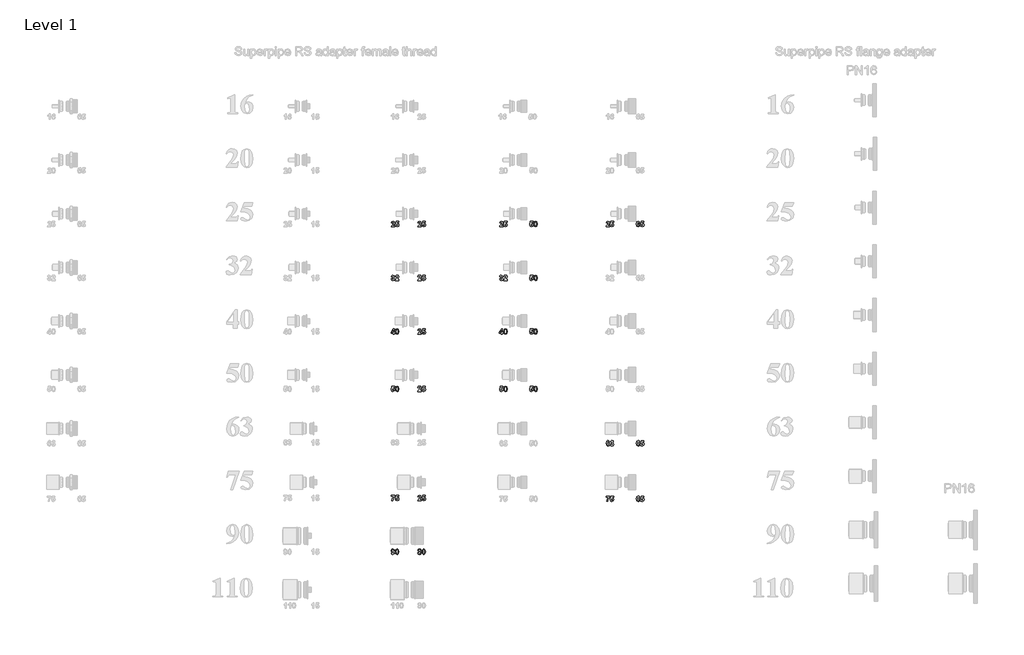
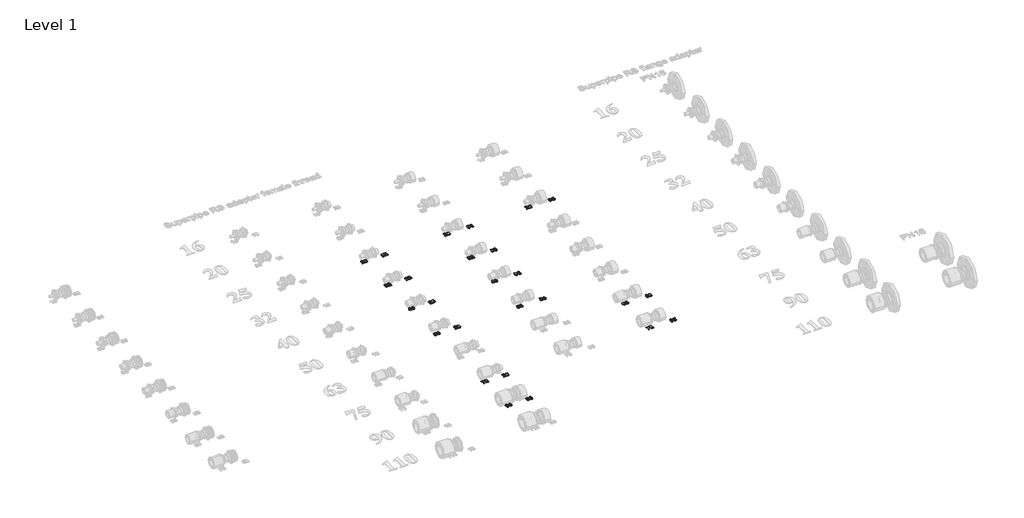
# One storey, part 46 of 57: 26 proxies.
"""IFC4 building model written with IfcOpenShell, lengths in millimetres."""

from ifc_helpers import new_model, si_unit, frame, origin, place, context, project, spatial, polyline, outline, extrude, element, save

model = new_model("IFC4")

# Units and contexts
model_context = context("Model", 3, world=origin())
ifc_project = project(units=[si_unit("LENGTHUNIT", "METRE", prefix="MILLI")], contexts=[model_context])

# Site, building, storey
site = spatial("IfcSite", under=ifc_project)
building = spatial("IfcBuilding", under=site)
storey = spatial("IfcBuildingStorey", under=building, Name="Level 1", Elevation=27.3876384)

# Proxies
placement = place(None, origin())
element("IfcBuildingElementProxy", 1, Name="30mm Arial", ObjectType="30mm Arial", at=placement, inside=storey, context=model_context, shape_type="SweptSolid", body=[
    extrude(outline(polyline([(32827.0287378, 17979.4089076), (32827.0287378, 17973.5788539), (32807.5952254, 17973.5788539), (32809.4550733, 17979.298835), (32815.566002, 17986.4687383), (32820.0751842, 17991.3574813), (32821.1986841, 17994.864623), (32820.2535777, 17997.8138103), (32817.6459951, 17998.84242), (32815.0346169, 17997.8289927), (32813.911117, 17994.4698797), (32808.0810633, 17995.0012648), (32811.2086442, 18002.0497087), (32817.7750458, 18004.1866359), (32824.5615927, 18001.7916074), (32827.0287378, 17995.8362986), (32826.3531196, 17991.979961), (32824.2123968, 17988.146397), (32820.5875912, 17984.3204243), (32817.2588431, 17981.003063), (32816.1657081, 17979.4089076), (32827.0287378, 17979.4089076)])), frame((0.0, 0.0, 27.3876384), z_axis=(0.0, 0.0, 1.0), x_axis=(1.0, 0.0, 0.0)), (0.0, 0.0, 1.0), 2.0),
    extrude(outline(polyline([(32830.9154403, 17982.1948838), (32836.2596562, 17982.8097723), (32837.7475345, 17979.6138705), (32840.6018316, 17978.437232), (32843.7256169, 17979.685987), (32845.0047368, 17983.4474344), (32843.8167115, 17986.9773498), (32840.7232911, 17988.1539882), (32836.4570278, 17985.7247992), (32831.4012781, 17986.4763295), (32834.8021428, 18003.7007981), (32849.3772771, 18003.7007981), (32849.3772771, 17997.8707444), (32839.5162878, 17997.8707444), (32838.3396493, 17992.3063832), (32842.0973011, 17993.4982041), (32848.2917332, 17990.7387972), (32850.8347905, 17983.5764851), (32848.7168413, 17977.0252659), (32840.6929262, 17973.0930161), (32834.0088607, 17975.5601612), (32830.9154403, 17982.1948838)])), frame((0.0, 0.0, 27.3876384), z_axis=(0.0, 0.0, 1.0), x_axis=(1.0, 0.0, 0.0)), (0.0, 0.0, 1.0), 2.0),
])
element("IfcBuildingElementProxy", 2, Name="30mm Arial", ObjectType="30mm Arial", at=placement, inside=storey, context=model_context, shape_type="SweptSolid", body=[
    extrude(outline(polyline([(32976.3452254, 17982.1948838), (32981.6894414, 17982.8097723), (32983.1773196, 17979.6138705), (32986.0316168, 17978.437232), (32989.1554021, 17979.685987), (32990.4345219, 17983.4474344), (32989.2464967, 17986.9773498), (32986.1530762, 17988.1539882), (32981.886813, 17985.7247992), (32976.8310633, 17986.4763295), (32980.2319279, 18003.7007981), (32994.8070622, 18003.7007981), (32994.8070622, 17997.8707444), (32984.9460729, 17997.8707444), (32983.7694345, 17992.3063832), (32987.5270863, 17993.4982041), (32993.7215184, 17990.7387972), (32996.2645756, 17983.5764851), (32994.1466264, 17977.0252659), (32986.1227114, 17973.0930161), (32979.4386459, 17975.5601612), (32976.3452254, 17982.1948838)])), frame((0.0, 0.0, 27.3876384), z_axis=(0.0, 0.0, 1.0), x_axis=(1.0, 0.0, 0.0)), (0.0, 0.0, 1.0), 2.0),
    extrude(outline(polyline([(33009.3821965, 18004.1866359), (33016.1763346, 18001.0286902), (33019.0989527, 17988.6322348), (33016.1611522, 17976.2054146), (33009.3821965, 17973.0930161), (33002.3413439, 17976.5090632), (32999.6654403, 17988.6929645), (33002.6032408, 18001.0742375), (33009.3821965, 18004.1866359)]), holes=[polyline([(33009.3821965, 17998.84242), (33007.4388453, 17998.2009623), (33006.1179737, 17995.8970283), (33005.495494, 17988.6322348), (33006.0496528, 17981.6141558), (33007.4502321, 17979.0710985), (33009.3821965, 17978.437232), (33011.3255477, 17979.0786898), (33012.6464193, 17981.3826237), (33013.268899, 17988.6322348), (33012.7147402, 17995.6465182), (33011.3141609, 17998.2009623), (33009.3821965, 17998.84242)])]), frame((0.0, 0.0, 27.3876384), z_axis=(0.0, 0.0, 1.0), x_axis=(1.0, 0.0, 0.0)), (0.0, 0.0, 1.0), 2.0),
])
element("IfcBuildingElementProxy", 3, Name="30mm Arial", ObjectType="30mm Arial", at=placement, inside=storey, context=model_context, shape_type="SweptSolid", body=[
    extrude(outline(polyline([(32807.5952254, 17682.1341541), (32813.4252792, 17682.8097723), (32814.7385595, 17679.560732), (32817.3271641, 17678.437232), (32820.0827754, 17679.7239431), (32821.1986841, 17683.1893331), (32820.1776656, 17686.4611471), (32817.6839512, 17687.6681504), (32815.3686304, 17687.2354511), (32815.8772419, 17692.0406907), (32818.750517, 17692.9971839), (32819.7411707, 17695.6996567), (32819.0010271, 17697.9884083), (32817.0311067, 17698.84242), (32814.9549091, 17697.8517664), (32813.911117, 17694.9557175), (32808.0810633, 17695.8287074), (32809.6866054, 17700.4631446), (32812.6851356, 17703.1921867), (32816.9931506, 17704.1866359), (32823.5367786, 17701.4310246), (32825.5712244, 17696.3297276), (32821.2062753, 17689.8999678), (32825.4421737, 17687.3986622), (32827.0287378, 17682.7034953), (32824.2161924, 17675.9055616), (32817.2132958, 17673.0930161), (32810.6279161, 17675.5943217), (32807.5952254, 17682.1341541)])), frame((0.0, 0.0, 27.3876384), z_axis=(0.0, 0.0, 1.0), x_axis=(1.0, 0.0, 0.0)), (0.0, 0.0, 1.0), 2.0),
    extrude(outline(polyline([(32850.3489527, 17679.4089076), (32850.3489527, 17673.5788539), (32830.9154403, 17673.5788539), (32832.7752882, 17679.298835), (32838.8862169, 17686.4687383), (32843.395399, 17691.3574813), (32844.518899, 17694.864623), (32843.5737926, 17697.8138103), (32840.96621, 17698.84242), (32838.3548318, 17697.8289927), (32837.2313318, 17694.4698797), (32831.4012781, 17695.0012648), (32834.528859, 17702.0497087), (32841.0952607, 17704.1866359), (32847.8818076, 17701.7916074), (32850.3489527, 17695.8362986), (32849.6733345, 17691.979961), (32847.5326116, 17688.146397), (32843.9078061, 17684.3204243), (32840.579058, 17681.003063), (32839.4859229, 17679.4089076), (32850.3489527, 17679.4089076)])), frame((0.0, 0.0, 27.3876384), z_axis=(0.0, 0.0, 1.0), x_axis=(1.0, 0.0, 0.0)), (0.0, 0.0, 1.0), 2.0),
])
element("IfcBuildingElementProxy", 4, Name="30mm Arial", ObjectType="30mm Arial", at=placement, inside=storey, context=model_context, shape_type="SweptSolid", body=[
    extrude(outline(polyline([(32976.3452254, 17682.1948838), (32981.6894414, 17682.8097723), (32983.1773196, 17679.6138705), (32986.0316168, 17678.437232), (32989.1554021, 17679.685987), (32990.4345219, 17683.4474344), (32989.2464967, 17686.9773498), (32986.1530762, 17688.1539882), (32981.886813, 17685.7247992), (32976.8310633, 17686.4763295), (32980.2319279, 17703.7007981), (32994.8070622, 17703.7007981), (32994.8070622, 17697.8707444), (32984.9460729, 17697.8707444), (32983.7694345, 17692.3063832), (32987.5270863, 17693.4982041), (32993.7215184, 17690.7387972), (32996.2645756, 17683.5764851), (32994.1466264, 17677.0252659), (32986.1227114, 17673.0930161), (32979.4386459, 17675.5601612), (32976.3452254, 17682.1948838)])), frame((0.0, 0.0, 27.3876384), z_axis=(0.0, 0.0, 1.0), x_axis=(1.0, 0.0, 0.0)), (0.0, 0.0, 1.0), 2.0),
    extrude(outline(polyline([(33009.3821965, 17704.1866359), (33016.1763346, 17701.0286902), (33019.0989527, 17688.6322348), (33016.1611522, 17676.2054146), (33009.3821965, 17673.0930161), (33002.3413439, 17676.5090632), (32999.6654403, 17688.6929645), (33002.6032408, 17701.0742375), (33009.3821965, 17704.1866359)]), holes=[polyline([(33009.3821965, 17698.84242), (33007.4388453, 17698.2009623), (33006.1179737, 17695.8970283), (33005.495494, 17688.6322348), (33006.0496528, 17681.6141558), (33007.4502321, 17679.0710985), (33009.3821965, 17678.437232), (33011.3255477, 17679.0786898), (33012.6464193, 17681.3826237), (33013.268899, 17688.6322348), (33012.7147402, 17695.6465182), (33011.3141609, 17698.2009623), (33009.3821965, 17698.84242)])]), frame((0.0, 0.0, 27.3876384), z_axis=(0.0, 0.0, 1.0), x_axis=(1.0, 0.0, 0.0)), (0.0, 0.0, 1.0), 2.0),
])
element("IfcBuildingElementProxy", 5, Name="30mm Arial", ObjectType="30mm Arial", at=placement, inside=storey, context=model_context, shape_type="SweptSolid", body=[
    extrude(outline(polyline([(32818.2836573, 17373.5788539), (32818.2836573, 17379.8947455), (32806.6235498, 17379.8947455), (32806.6235498, 17384.7303499), (32819.0579613, 17403.7007981), (32824.113711, 17403.7007981), (32824.113711, 17384.7531236), (32828.0004134, 17384.7531236), (32828.0004134, 17379.8947455), (32824.113711, 17379.8947455), (32824.113711, 17373.5788539), (32818.2836573, 17373.5788539)]), holes=[polyline([(32818.2836573, 17384.7531236), (32818.2836573, 17394.6976162), (32811.7703941, 17384.7531236), (32818.2836573, 17384.7531236)])]), frame((0.0, 0.0, 27.3876384), z_axis=(0.0, 0.0, 1.0), x_axis=(1.0, 0.0, 0.0)), (0.0, 0.0, 1.0), 2.0),
    extrude(outline(polyline([(32840.6321965, 17404.1866359), (32847.4263346, 17401.0286902), (32850.3489527, 17388.6322348), (32847.4111522, 17376.2054146), (32840.6321965, 17373.0930161), (32833.5913439, 17376.5090632), (32830.9154403, 17388.6929645), (32833.8532408, 17401.0742375), (32840.6321965, 17404.1866359)]), holes=[polyline([(32840.6321965, 17398.84242), (32838.6888453, 17398.2009623), (32837.3679737, 17395.8970283), (32836.745494, 17388.6322348), (32837.2996528, 17381.6141558), (32838.7002321, 17379.0710985), (32840.6321965, 17378.437232), (32842.5755477, 17379.0786898), (32843.8964193, 17381.3826237), (32844.518899, 17388.6322348), (32843.9647402, 17395.6465182), (32842.5641609, 17398.2009623), (32840.6321965, 17398.84242)])]), frame((0.0, 0.0, 27.3876384), z_axis=(0.0, 0.0, 1.0), x_axis=(1.0, 0.0, 0.0)), (0.0, 0.0, 1.0), 2.0),
])
element("IfcBuildingElementProxy", 6, Name="30mm Arial", ObjectType="30mm Arial", at=placement, inside=storey, context=model_context, shape_type="SweptSolid", body=[
    extrude(outline(polyline([(32976.3452254, 17382.1948838), (32981.6894414, 17382.8097723), (32983.1773196, 17379.6138705), (32986.0316168, 17378.437232), (32989.1554021, 17379.685987), (32990.4345219, 17383.4474344), (32989.2464967, 17386.9773498), (32986.1530762, 17388.1539882), (32981.886813, 17385.7247992), (32976.8310633, 17386.4763295), (32980.2319279, 17403.7007981), (32994.8070622, 17403.7007981), (32994.8070622, 17397.8707444), (32984.9460729, 17397.8707444), (32983.7694345, 17392.3063832), (32987.5270863, 17393.4982041), (32993.7215184, 17390.7387972), (32996.2645756, 17383.5764851), (32994.1466264, 17377.0252659), (32986.1227114, 17373.0930161), (32979.4386459, 17375.5601612), (32976.3452254, 17382.1948838)])), frame((0.0, 0.0, 27.3876384), z_axis=(0.0, 0.0, 1.0), x_axis=(1.0, 0.0, 0.0)), (0.0, 0.0, 1.0), 2.0),
    extrude(outline(polyline([(33009.3821965, 17404.1866359), (33016.1763346, 17401.0286902), (33019.0989527, 17388.6322348), (33016.1611522, 17376.2054146), (33009.3821965, 17373.0930161), (33002.3413439, 17376.5090632), (32999.6654403, 17388.6929645), (33002.6032408, 17401.0742375), (33009.3821965, 17404.1866359)]), holes=[polyline([(33009.3821965, 17398.84242), (33007.4388453, 17398.2009623), (33006.1179737, 17395.8970283), (33005.495494, 17388.6322348), (33006.0496528, 17381.6141558), (33007.4502321, 17379.0710985), (33009.3821965, 17378.437232), (33011.3255477, 17379.0786898), (33012.6464193, 17381.3826237), (33013.268899, 17388.6322348), (33012.7147402, 17395.6465182), (33011.3141609, 17398.2009623), (33009.3821965, 17398.84242)])]), frame((0.0, 0.0, 27.3876384), z_axis=(0.0, 0.0, 1.0), x_axis=(1.0, 0.0, 0.0)), (0.0, 0.0, 1.0), 2.0),
])
element("IfcBuildingElementProxy", 7, Name="30mm Arial", ObjectType="30mm Arial", at=placement, inside=storey, context=model_context, shape_type="SweptSolid", body=[
    extrude(outline(polyline([(32807.5952254, 17062.1948838), (32812.9394414, 17062.8097723), (32814.4273196, 17059.6138705), (32817.2816168, 17058.437232), (32820.4054021, 17059.685987), (32821.6845219, 17063.4474344), (32820.4964967, 17066.9773498), (32817.4030762, 17068.1539882), (32813.136813, 17065.7247992), (32808.0810633, 17066.4763295), (32811.4819279, 17083.7007981), (32826.0570622, 17083.7007981), (32826.0570622, 17077.8707444), (32816.1960729, 17077.8707444), (32815.0194345, 17072.3063832), (32818.7770863, 17073.4982041), (32824.9715184, 17070.7387972), (32827.5145756, 17063.5764851), (32825.3966264, 17057.0252659), (32817.3727114, 17053.0930161), (32810.6886459, 17055.5601612), (32807.5952254, 17062.1948838)])), frame((0.0, 0.0, 27.3876384), z_axis=(0.0, 0.0, 1.0), x_axis=(1.0, 0.0, 0.0)), (0.0, 0.0, 1.0), 2.0),
    extrude(outline(polyline([(32840.6321965, 17084.1866359), (32847.4263346, 17081.0286902), (32850.3489527, 17068.6322348), (32847.4111522, 17056.2054146), (32840.6321965, 17053.0930161), (32833.5913439, 17056.5090632), (32830.9154403, 17068.6929645), (32833.8532408, 17081.0742375), (32840.6321965, 17084.1866359)]), holes=[polyline([(32840.6321965, 17078.84242), (32838.6888453, 17078.2009623), (32837.3679737, 17075.8970283), (32836.745494, 17068.6322348), (32837.2996528, 17061.6141558), (32838.7002321, 17059.0710985), (32840.6321965, 17058.437232), (32842.5755477, 17059.0786898), (32843.8964193, 17061.3826237), (32844.518899, 17068.6322348), (32843.9647402, 17075.6465182), (32842.5641609, 17078.2009623), (32840.6321965, 17078.84242)])]), frame((0.0, 0.0, 27.3876384), z_axis=(0.0, 0.0, 1.0), x_axis=(1.0, 0.0, 0.0)), (0.0, 0.0, 1.0), 2.0),
])
element("IfcBuildingElementProxy", 8, Name="30mm Arial", ObjectType="30mm Arial", at=placement, inside=storey, context=model_context, shape_type="SweptSolid", body=[
    extrude(outline(polyline([(32976.3452254, 17062.1948838), (32981.6894414, 17062.8097723), (32983.1773196, 17059.6138705), (32986.0316168, 17058.437232), (32989.1554021, 17059.685987), (32990.4345219, 17063.4474344), (32989.2464967, 17066.9773498), (32986.1530762, 17068.1539882), (32981.886813, 17065.7247992), (32976.8310633, 17066.4763295), (32980.2319279, 17083.7007981), (32994.8070622, 17083.7007981), (32994.8070622, 17077.8707444), (32984.9460729, 17077.8707444), (32983.7694345, 17072.3063832), (32987.5270863, 17073.4982041), (32993.7215184, 17070.7387972), (32996.2645756, 17063.5764851), (32994.1466264, 17057.0252659), (32986.1227114, 17053.0930161), (32979.4386459, 17055.5601612), (32976.3452254, 17062.1948838)])), frame((0.0, 0.0, 27.3876384), z_axis=(0.0, 0.0, 1.0), x_axis=(1.0, 0.0, 0.0)), (0.0, 0.0, 1.0), 2.0),
    extrude(outline(polyline([(33009.3821965, 17084.1866359), (33016.1763346, 17081.0286902), (33019.0989527, 17068.6322348), (33016.1611522, 17056.2054146), (33009.3821965, 17053.0930161), (33002.3413439, 17056.5090632), (32999.6654403, 17068.6929645), (33002.6032408, 17081.0742375), (33009.3821965, 17084.1866359)]), holes=[polyline([(33009.3821965, 17078.84242), (33007.4388453, 17078.2009623), (33006.1179737, 17075.8970283), (33005.495494, 17068.6322348), (33006.0496528, 17061.6141558), (33007.4502321, 17059.0710985), (33009.3821965, 17058.437232), (33011.3255477, 17059.0786898), (33012.6464193, 17061.3826237), (33013.268899, 17068.6322348), (33012.7147402, 17075.6465182), (33011.3141609, 17078.2009623), (33009.3821965, 17078.84242)])]), frame((0.0, 0.0, 27.3876384), z_axis=(0.0, 0.0, 1.0), x_axis=(1.0, 0.0, 0.0)), (0.0, 0.0, 1.0), 2.0),
])
element("IfcBuildingElementProxy", 9, Name="30mm Arial", ObjectType="30mm Arial", at=placement, inside=storey, context=model_context, shape_type="SweptSolid", body=[
    extrude(outline(polyline([(33422.0287378, 17979.4089076), (33422.0287378, 17973.5788539), (33402.5952254, 17973.5788539), (33404.4550733, 17979.298835), (33410.566002, 17986.4687383), (33415.0751842, 17991.3574813), (33416.1986841, 17994.864623), (33415.2535777, 17997.8138103), (33412.6459951, 17998.84242), (33410.0346169, 17997.8289927), (33408.911117, 17994.4698797), (33403.0810633, 17995.0012648), (33406.2086442, 18002.0497087), (33412.7750458, 18004.1866359), (33419.5615927, 18001.7916074), (33422.0287378, 17995.8362986), (33421.3531196, 17991.979961), (33419.2123968, 17988.146397), (33415.5875912, 17984.3204243), (33412.2588431, 17981.003063), (33411.1657081, 17979.4089076), (33422.0287378, 17979.4089076)])), frame((0.0, 0.0, 27.3876384), z_axis=(0.0, 0.0, 1.0), x_axis=(1.0, 0.0, 0.0)), (0.0, 0.0, 1.0), 2.0),
    extrude(outline(polyline([(33425.9154403, 17982.1948838), (33431.2596562, 17982.8097723), (33432.7475345, 17979.6138705), (33435.6018316, 17978.437232), (33438.7256169, 17979.685987), (33440.0047368, 17983.4474344), (33438.8167115, 17986.9773498), (33435.7232911, 17988.1539882), (33431.4570278, 17985.7247992), (33426.4012781, 17986.4763295), (33429.8021428, 18003.7007981), (33444.3772771, 18003.7007981), (33444.3772771, 17997.8707444), (33434.5162878, 17997.8707444), (33433.3396493, 17992.3063832), (33437.0973011, 17993.4982041), (33443.2917332, 17990.7387972), (33445.8347905, 17983.5764851), (33443.7168413, 17977.0252659), (33435.6929262, 17973.0930161), (33429.0088607, 17975.5601612), (33425.9154403, 17982.1948838)])), frame((0.0, 0.0, 27.3876384), z_axis=(0.0, 0.0, 1.0), x_axis=(1.0, 0.0, 0.0)), (0.0, 0.0, 1.0), 2.0),
])
element("IfcBuildingElementProxy", 10, Name="30mm Arial", ObjectType="30mm Arial", at=placement, inside=storey, context=model_context, shape_type="SweptSolid", body=[
    extrude(outline(polyline([(33590.2929, 17996.0640351), (33584.4628463, 17995.4415554), (33583.430441, 17998.0111819), (33581.2593532, 17998.84242), (33578.2684142, 17997.2292867), (33576.7273974, 17990.4541266), (33582.0564309, 17993.0123663), (33588.2167025, 17990.2795286), (33590.7787378, 17983.2272892), (33588.1597684, 17975.8676055), (33581.42636, 17973.0930161), (33574.1843401, 17976.67607), (33571.3452254, 17988.4196808), (33574.3095952, 18000.4897138), (33582.0108836, 18004.1866359), (33587.514515, 18002.1066428), (33590.2929, 17996.0640351)]), holes=[polyline([(33577.1752792, 17983.3563398), (33578.435421, 17979.7163519), (33581.3124918, 17978.437232), (33583.9086876, 17979.4848198), (33584.9486841, 17982.9236405), (33583.8289798, 17986.5256724), (33581.0316168, 17987.6681504), (33578.2949835, 17986.5750153), (33577.1752792, 17983.3563398)])]), frame((0.0, 0.0, 27.3876384), z_axis=(0.0, 0.0, 1.0), x_axis=(1.0, 0.0, 0.0)), (0.0, 0.0, 1.0), 2.0),
    extrude(outline(polyline([(33594.6654403, 17982.1948838), (33600.0096562, 17982.8097723), (33601.4975345, 17979.6138705), (33604.3518316, 17978.437232), (33607.4756169, 17979.685987), (33608.7547368, 17983.4474344), (33607.5667115, 17986.9773498), (33604.4732911, 17988.1539882), (33600.2070278, 17985.7247992), (33595.1512781, 17986.4763295), (33598.5521428, 18003.7007981), (33613.1272771, 18003.7007981), (33613.1272771, 17997.8707444), (33603.2662878, 17997.8707444), (33602.0896493, 17992.3063832), (33605.8473011, 17993.4982041), (33612.0417332, 17990.7387972), (33614.5847905, 17983.5764851), (33612.4668413, 17977.0252659), (33604.4429262, 17973.0930161), (33597.7588607, 17975.5601612), (33594.6654403, 17982.1948838)])), frame((0.0, 0.0, 27.3876384), z_axis=(0.0, 0.0, 1.0), x_axis=(1.0, 0.0, 0.0)), (0.0, 0.0, 1.0), 2.0),
])
element("IfcBuildingElementProxy", 11, Name="30mm Arial", ObjectType="30mm Arial", at=placement, inside=storey, context=model_context, shape_type="SweptSolid", body=[
    extrude(outline(polyline([(33421.5429, 16772.0640351), (33415.7128463, 16771.4415554), (33414.680441, 16774.0111819), (33412.5093532, 16774.84242), (33409.5184142, 16773.2292867), (33407.9773974, 16766.4541266), (33413.3064309, 16769.0123663), (33419.4667025, 16766.2795286), (33422.0287378, 16759.2272892), (33419.4097684, 16751.8676055), (33412.67636, 16749.0930161), (33405.4343401, 16752.67607), (33402.5952254, 16764.4196808), (33405.5595952, 16776.4897138), (33413.2608836, 16780.1866359), (33418.764515, 16778.1066428), (33421.5429, 16772.0640351)]), holes=[polyline([(33408.4252792, 16759.3563398), (33409.685421, 16755.7163519), (33412.5624918, 16754.437232), (33415.1586876, 16755.4848198), (33416.1986841, 16758.9236405), (33415.0789798, 16762.5256724), (33412.2816168, 16763.6681504), (33409.5449835, 16762.5750153), (33408.4252792, 16759.3563398)])]), frame((0.0, 0.0, 27.3876384), z_axis=(0.0, 0.0, 1.0), x_axis=(1.0, 0.0, 0.0)), (0.0, 0.0, 1.0), 2.0),
    extrude(outline(polyline([(33425.9154403, 16758.1341541), (33431.745494, 16758.8097723), (33433.0587743, 16755.560732), (33435.6473789, 16754.437232), (33438.4029903, 16755.7239431), (33439.518899, 16759.1893331), (33438.4978804, 16762.4611471), (33436.0041661, 16763.6681504), (33433.6888453, 16763.2354511), (33434.1974567, 16768.0406907), (33437.0707319, 16768.9971839), (33438.0613855, 16771.6996567), (33437.321242, 16773.9884083), (33435.3513215, 16774.84242), (33433.275124, 16773.8517664), (33432.2313318, 16770.9557175), (33426.4012781, 16771.8287074), (33428.0068202, 16776.4631446), (33431.0053505, 16779.1921867), (33435.3133654, 16780.1866359), (33441.8569934, 16777.4310246), (33443.8914393, 16772.3297276), (33439.5264902, 16765.8999678), (33443.7623886, 16763.3986622), (33445.3489527, 16758.7034953), (33442.5364072, 16751.9055616), (33435.5335107, 16749.0930161), (33428.948131, 16751.5943217), (33425.9154403, 16758.1341541)])), frame((0.0, 0.0, 27.3876384), z_axis=(0.0, 0.0, 1.0), x_axis=(1.0, 0.0, 0.0)), (0.0, 0.0, 1.0), 2.0),
])
element("IfcBuildingElementProxy", 12, Name="30mm Arial", ObjectType="30mm Arial", at=placement, inside=storey, context=model_context, shape_type="SweptSolid", body=[
    extrude(outline(polyline([(33590.2929, 16772.0640351), (33584.4628463, 16771.4415554), (33583.430441, 16774.0111819), (33581.2593532, 16774.84242), (33578.2684142, 16773.2292867), (33576.7273974, 16766.4541266), (33582.0564309, 16769.0123663), (33588.2167025, 16766.2795286), (33590.7787378, 16759.2272892), (33588.1597684, 16751.8676055), (33581.42636, 16749.0930161), (33574.1843401, 16752.67607), (33571.3452254, 16764.4196808), (33574.3095952, 16776.4897138), (33582.0108836, 16780.1866359), (33587.514515, 16778.1066428), (33590.2929, 16772.0640351)]), holes=[polyline([(33577.1752792, 16759.3563398), (33578.435421, 16755.7163519), (33581.3124918, 16754.437232), (33583.9086876, 16755.4848198), (33584.9486841, 16758.9236405), (33583.8289798, 16762.5256724), (33581.0316168, 16763.6681504), (33578.2949835, 16762.5750153), (33577.1752792, 16759.3563398)])]), frame((0.0, 0.0, 27.3876384), z_axis=(0.0, 0.0, 1.0), x_axis=(1.0, 0.0, 0.0)), (0.0, 0.0, 1.0), 2.0),
    extrude(outline(polyline([(33594.6654403, 16758.1948838), (33600.0096562, 16758.8097723), (33601.4975345, 16755.6138705), (33604.3518316, 16754.437232), (33607.4756169, 16755.685987), (33608.7547368, 16759.4474344), (33607.5667115, 16762.9773498), (33604.4732911, 16764.1539882), (33600.2070278, 16761.7247992), (33595.1512781, 16762.4763295), (33598.5521428, 16779.7007981), (33613.1272771, 16779.7007981), (33613.1272771, 16773.8707444), (33603.2662878, 16773.8707444), (33602.0896493, 16768.3063832), (33605.8473011, 16769.4982041), (33612.0417332, 16766.7387972), (33614.5847905, 16759.5764851), (33612.4668413, 16753.0252659), (33604.4429262, 16749.0930161), (33597.7588607, 16751.5601612), (33594.6654403, 16758.1948838)])), frame((0.0, 0.0, 27.3876384), z_axis=(0.0, 0.0, 1.0), x_axis=(1.0, 0.0, 0.0)), (0.0, 0.0, 1.0), 2.0),
])
element("IfcBuildingElementProxy", 13, Name="30mm Arial", ObjectType="30mm Arial", at=placement, inside=storey, context=model_context, shape_type="SweptSolid", body=[
    extrude(outline(polyline([(33402.5952254, 16463.7207444), (33402.5952254, 16469.5507981), (33422.0287378, 16469.5507981), (33422.0287378, 16465.1782578), (33417.022331, 16458.2095218), (33413.1394242, 16448.5610865), (33411.8261438, 16439.4288539), (33405.9960901, 16439.4288539), (33408.6568112, 16452.1403447), (33415.3636504, 16463.7207444), (33402.5952254, 16463.7207444)])), frame((0.0, 0.0, 27.3876384), z_axis=(0.0, 0.0, 1.0), x_axis=(1.0, 0.0, 0.0)), (0.0, 0.0, 1.0), 2.0),
    extrude(outline(polyline([(33425.9154403, 16448.0448838), (33431.2596562, 16448.6597723), (33432.7475345, 16445.4638705), (33435.6018316, 16444.287232), (33438.7256169, 16445.535987), (33440.0047368, 16449.2974344), (33438.8167115, 16452.8273498), (33435.7232911, 16454.0039882), (33431.4570278, 16451.5747992), (33426.4012781, 16452.3263295), (33429.8021428, 16469.5507981), (33444.3772771, 16469.5507981), (33444.3772771, 16463.7207444), (33434.5162878, 16463.7207444), (33433.3396493, 16458.1563832), (33437.0973011, 16459.3482041), (33443.2917332, 16456.5887972), (33445.8347905, 16449.4264851), (33443.7168413, 16442.8752659), (33435.6929262, 16438.9430161), (33429.0088607, 16441.4101612), (33425.9154403, 16448.0448838)])), frame((0.0, 0.0, 27.3876384), z_axis=(0.0, 0.0, 1.0), x_axis=(1.0, 0.0, 0.0)), (0.0, 0.0, 1.0), 2.0),
])
element("IfcBuildingElementProxy", 14, Name="30mm Arial", ObjectType="30mm Arial", at=placement, inside=storey, context=model_context, shape_type="SweptSolid", body=[
    extrude(outline(polyline([(33590.2929, 16461.9140351), (33584.4628463, 16461.2915554), (33583.430441, 16463.8611819), (33581.2593532, 16464.69242), (33578.2684142, 16463.0792867), (33576.7273974, 16456.3041266), (33582.0564309, 16458.8623663), (33588.2167025, 16456.1295286), (33590.7787378, 16449.0772892), (33588.1597684, 16441.7176055), (33581.42636, 16438.9430161), (33574.1843401, 16442.52607), (33571.3452254, 16454.2696808), (33574.3095952, 16466.3397138), (33582.0108836, 16470.0366359), (33587.514515, 16467.9566428), (33590.2929, 16461.9140351)]), holes=[polyline([(33577.1752792, 16449.2063398), (33578.435421, 16445.5663519), (33581.3124918, 16444.287232), (33583.9086876, 16445.3348198), (33584.9486841, 16448.7736405), (33583.8289798, 16452.3756724), (33581.0316168, 16453.5181504), (33578.2949835, 16452.4250153), (33577.1752792, 16449.2063398)])]), frame((0.0, 0.0, 27.3876384), z_axis=(0.0, 0.0, 1.0), x_axis=(1.0, 0.0, 0.0)), (0.0, 0.0, 1.0), 2.0),
    extrude(outline(polyline([(33594.6654403, 16448.0448838), (33600.0096562, 16448.6597723), (33601.4975345, 16445.4638705), (33604.3518316, 16444.287232), (33607.4756169, 16445.535987), (33608.7547368, 16449.2974344), (33607.5667115, 16452.8273498), (33604.4732911, 16454.0039882), (33600.2070278, 16451.5747992), (33595.1512781, 16452.3263295), (33598.5521428, 16469.5507981), (33613.1272771, 16469.5507981), (33613.1272771, 16463.7207444), (33603.2662878, 16463.7207444), (33602.0896493, 16458.1563832), (33605.8473011, 16459.3482041), (33612.0417332, 16456.5887972), (33614.5847905, 16449.4264851), (33612.4668413, 16442.8752659), (33604.4429262, 16438.9430161), (33597.7588607, 16441.4101612), (33594.6654403, 16448.0448838)])), frame((0.0, 0.0, 27.3876384), z_axis=(0.0, 0.0, 1.0), x_axis=(1.0, 0.0, 0.0)), (0.0, 0.0, 1.0), 2.0),
])
element("IfcBuildingElementProxy", 15, Name="30mm Arial", ObjectType="30mm Arial", at=placement, inside=storey, context=model_context, shape_type="SweptSolid", body=[
    extrude(outline(polyline([(32222.0287378, 17979.4089076), (32222.0287378, 17973.5788539), (32202.5952254, 17973.5788539), (32204.4550733, 17979.298835), (32210.566002, 17986.4687383), (32215.0751842, 17991.3574813), (32216.1986841, 17994.864623), (32215.2535777, 17997.8138103), (32212.6459951, 17998.84242), (32210.0346169, 17997.8289927), (32208.911117, 17994.4698797), (32203.0810633, 17995.0012648), (32206.2086442, 18002.0497087), (32212.7750458, 18004.1866359), (32219.5615927, 18001.7916074), (32222.0287378, 17995.8362986), (32221.3531196, 17991.979961), (32219.2123968, 17988.146397), (32215.5875912, 17984.3204243), (32212.2588431, 17981.003063), (32211.1657081, 17979.4089076), (32222.0287378, 17979.4089076)])), frame((0.0, 0.0, 27.3876384), z_axis=(0.0, 0.0, 1.0), x_axis=(1.0, 0.0, 0.0)), (0.0, 0.0, 1.0), 2.0),
    extrude(outline(polyline([(32225.9154403, 17982.1948838), (32231.2596562, 17982.8097723), (32232.7475345, 17979.6138705), (32235.6018316, 17978.437232), (32238.7256169, 17979.685987), (32240.0047368, 17983.4474344), (32238.8167115, 17986.9773498), (32235.7232911, 17988.1539882), (32231.4570278, 17985.7247992), (32226.4012781, 17986.4763295), (32229.8021428, 18003.7007981), (32244.3772771, 18003.7007981), (32244.3772771, 17997.8707444), (32234.5162878, 17997.8707444), (32233.3396493, 17992.3063832), (32237.0973011, 17993.4982041), (32243.2917332, 17990.7387972), (32245.8347905, 17983.5764851), (32243.7168413, 17977.0252659), (32235.6929262, 17973.0930161), (32229.0088607, 17975.5601612), (32225.9154403, 17982.1948838)])), frame((0.0, 0.0, 27.3876384), z_axis=(0.0, 0.0, 1.0), x_axis=(1.0, 0.0, 0.0)), (0.0, 0.0, 1.0), 2.0),
])
element("IfcBuildingElementProxy", 16, Name="30mm Arial", ObjectType="30mm Arial", at=placement, inside=storey, context=model_context, shape_type="SweptSolid", body=[
    extrude(outline(polyline([(32370.7787378, 17979.4089076), (32370.7787378, 17973.5788539), (32351.3452254, 17973.5788539), (32353.2050733, 17979.298835), (32359.316002, 17986.4687383), (32363.8251842, 17991.3574813), (32364.9486841, 17994.864623), (32364.0035777, 17997.8138103), (32361.3959951, 17998.84242), (32358.7846169, 17997.8289927), (32357.661117, 17994.4698797), (32351.8310633, 17995.0012648), (32354.9586442, 18002.0497087), (32361.5250458, 18004.1866359), (32368.3115927, 18001.7916074), (32370.7787378, 17995.8362986), (32370.1031196, 17991.979961), (32367.9623968, 17988.146397), (32364.3375912, 17984.3204243), (32361.0088431, 17981.003063), (32359.9157081, 17979.4089076), (32370.7787378, 17979.4089076)])), frame((0.0, 0.0, 27.3876384), z_axis=(0.0, 0.0, 1.0), x_axis=(1.0, 0.0, 0.0)), (0.0, 0.0, 1.0), 2.0),
    extrude(outline(polyline([(32374.6654403, 17982.1948838), (32380.0096562, 17982.8097723), (32381.4975345, 17979.6138705), (32384.3518316, 17978.437232), (32387.4756169, 17979.685987), (32388.7547368, 17983.4474344), (32387.5667115, 17986.9773498), (32384.4732911, 17988.1539882), (32380.2070278, 17985.7247992), (32375.1512781, 17986.4763295), (32378.5521428, 18003.7007981), (32393.1272771, 18003.7007981), (32393.1272771, 17997.8707444), (32383.2662878, 17997.8707444), (32382.0896493, 17992.3063832), (32385.8473011, 17993.4982041), (32392.0417332, 17990.7387972), (32394.5847905, 17983.5764851), (32392.4668413, 17977.0252659), (32384.4429262, 17973.0930161), (32377.7588607, 17975.5601612), (32374.6654403, 17982.1948838)])), frame((0.0, 0.0, 27.3876384), z_axis=(0.0, 0.0, 1.0), x_axis=(1.0, 0.0, 0.0)), (0.0, 0.0, 1.0), 2.0),
])
element("IfcBuildingElementProxy", 17, Name="30mm Arial", ObjectType="30mm Arial", at=placement, inside=storey, context=model_context, shape_type="SweptSolid", body=[
    extrude(outline(polyline([(32202.5952254, 17682.1341541), (32208.4252792, 17682.8097723), (32209.7385595, 17679.560732), (32212.3271641, 17678.437232), (32215.0827754, 17679.7239431), (32216.1986841, 17683.1893331), (32215.1776656, 17686.4611471), (32212.6839512, 17687.6681504), (32210.3686304, 17687.2354511), (32210.8772419, 17692.0406907), (32213.750517, 17692.9971839), (32214.7411707, 17695.6996567), (32214.0010271, 17697.9884083), (32212.0311067, 17698.84242), (32209.9549091, 17697.8517664), (32208.911117, 17694.9557175), (32203.0810633, 17695.8287074), (32204.6866054, 17700.4631446), (32207.6851356, 17703.1921867), (32211.9931506, 17704.1866359), (32218.5367786, 17701.4310246), (32220.5712244, 17696.3297276), (32216.2062753, 17689.8999678), (32220.4421737, 17687.3986622), (32222.0287378, 17682.7034953), (32219.2161924, 17675.9055616), (32212.2132958, 17673.0930161), (32205.6279161, 17675.5943217), (32202.5952254, 17682.1341541)])), frame((0.0, 0.0, 27.3876384), z_axis=(0.0, 0.0, 1.0), x_axis=(1.0, 0.0, 0.0)), (0.0, 0.0, 1.0), 2.0),
    extrude(outline(polyline([(32245.3489527, 17679.4089076), (32245.3489527, 17673.5788539), (32225.9154403, 17673.5788539), (32227.7752882, 17679.298835), (32233.8862169, 17686.4687383), (32238.395399, 17691.3574813), (32239.518899, 17694.864623), (32238.5737926, 17697.8138103), (32235.96621, 17698.84242), (32233.3548318, 17697.8289927), (32232.2313318, 17694.4698797), (32226.4012781, 17695.0012648), (32229.528859, 17702.0497087), (32236.0952607, 17704.1866359), (32242.8818076, 17701.7916074), (32245.3489527, 17695.8362986), (32244.6733345, 17691.979961), (32242.5326116, 17688.146397), (32238.9078061, 17684.3204243), (32235.579058, 17681.003063), (32234.4859229, 17679.4089076), (32245.3489527, 17679.4089076)])), frame((0.0, 0.0, 27.3876384), z_axis=(0.0, 0.0, 1.0), x_axis=(1.0, 0.0, 0.0)), (0.0, 0.0, 1.0), 2.0),
])
element("IfcBuildingElementProxy", 18, Name="30mm Arial", ObjectType="30mm Arial", at=placement, inside=storey, context=model_context, shape_type="SweptSolid", body=[
    extrude(outline(polyline([(32370.7787378, 17679.4089076), (32370.7787378, 17673.5788539), (32351.3452254, 17673.5788539), (32353.2050733, 17679.298835), (32359.316002, 17686.4687383), (32363.8251842, 17691.3574813), (32364.9486841, 17694.864623), (32364.0035777, 17697.8138103), (32361.3959951, 17698.84242), (32358.7846169, 17697.8289927), (32357.661117, 17694.4698797), (32351.8310633, 17695.0012648), (32354.9586442, 17702.0497087), (32361.5250458, 17704.1866359), (32368.3115927, 17701.7916074), (32370.7787378, 17695.8362986), (32370.1031196, 17691.979961), (32367.9623968, 17688.146397), (32364.3375912, 17684.3204243), (32361.0088431, 17681.003063), (32359.9157081, 17679.4089076), (32370.7787378, 17679.4089076)])), frame((0.0, 0.0, 27.3876384), z_axis=(0.0, 0.0, 1.0), x_axis=(1.0, 0.0, 0.0)), (0.0, 0.0, 1.0), 2.0),
    extrude(outline(polyline([(32374.6654403, 17682.1948838), (32380.0096562, 17682.8097723), (32381.4975345, 17679.6138705), (32384.3518316, 17678.437232), (32387.4756169, 17679.685987), (32388.7547368, 17683.4474344), (32387.5667115, 17686.9773498), (32384.4732911, 17688.1539882), (32380.2070278, 17685.7247992), (32375.1512781, 17686.4763295), (32378.5521428, 17703.7007981), (32393.1272771, 17703.7007981), (32393.1272771, 17697.8707444), (32383.2662878, 17697.8707444), (32382.0896493, 17692.3063832), (32385.8473011, 17693.4982041), (32392.0417332, 17690.7387972), (32394.5847905, 17683.5764851), (32392.4668413, 17677.0252659), (32384.4429262, 17673.0930161), (32377.7588607, 17675.5601612), (32374.6654403, 17682.1948838)])), frame((0.0, 0.0, 27.3876384), z_axis=(0.0, 0.0, 1.0), x_axis=(1.0, 0.0, 0.0)), (0.0, 0.0, 1.0), 2.0),
])
element("IfcBuildingElementProxy", 19, Name="30mm Arial", ObjectType="30mm Arial", at=placement, inside=storey, context=model_context, shape_type="SweptSolid", body=[
    extrude(outline(polyline([(32213.2836573, 17373.5788539), (32213.2836573, 17379.8947455), (32201.6235498, 17379.8947455), (32201.6235498, 17384.7303499), (32214.0579613, 17403.7007981), (32219.113711, 17403.7007981), (32219.113711, 17384.7531236), (32223.0004134, 17384.7531236), (32223.0004134, 17379.8947455), (32219.113711, 17379.8947455), (32219.113711, 17373.5788539), (32213.2836573, 17373.5788539)]), holes=[polyline([(32213.2836573, 17384.7531236), (32213.2836573, 17394.6976162), (32206.7703941, 17384.7531236), (32213.2836573, 17384.7531236)])]), frame((0.0, 0.0, 27.3876384), z_axis=(0.0, 0.0, 1.0), x_axis=(1.0, 0.0, 0.0)), (0.0, 0.0, 1.0), 2.0),
    extrude(outline(polyline([(32235.6321965, 17404.1866359), (32242.4263346, 17401.0286902), (32245.3489527, 17388.6322348), (32242.4111522, 17376.2054146), (32235.6321965, 17373.0930161), (32228.5913439, 17376.5090632), (32225.9154403, 17388.6929645), (32228.8532408, 17401.0742375), (32235.6321965, 17404.1866359)]), holes=[polyline([(32235.6321965, 17398.84242), (32233.6888453, 17398.2009623), (32232.3679737, 17395.8970283), (32231.745494, 17388.6322348), (32232.2996528, 17381.6141558), (32233.7002321, 17379.0710985), (32235.6321965, 17378.437232), (32237.5755477, 17379.0786898), (32238.8964193, 17381.3826237), (32239.518899, 17388.6322348), (32238.9647402, 17395.6465182), (32237.5641609, 17398.2009623), (32235.6321965, 17398.84242)])]), frame((0.0, 0.0, 27.3876384), z_axis=(0.0, 0.0, 1.0), x_axis=(1.0, 0.0, 0.0)), (0.0, 0.0, 1.0), 2.0),
])
element("IfcBuildingElementProxy", 20, Name="30mm Arial", ObjectType="30mm Arial", at=placement, inside=storey, context=model_context, shape_type="SweptSolid", body=[
    extrude(outline(polyline([(32370.7787378, 17379.4089076), (32370.7787378, 17373.5788539), (32351.3452254, 17373.5788539), (32353.2050733, 17379.298835), (32359.316002, 17386.4687383), (32363.8251842, 17391.3574813), (32364.9486841, 17394.864623), (32364.0035777, 17397.8138103), (32361.3959951, 17398.84242), (32358.7846169, 17397.8289927), (32357.661117, 17394.4698797), (32351.8310633, 17395.0012648), (32354.9586442, 17402.0497087), (32361.5250458, 17404.1866359), (32368.3115927, 17401.7916074), (32370.7787378, 17395.8362986), (32370.1031196, 17391.979961), (32367.9623968, 17388.146397), (32364.3375912, 17384.3204243), (32361.0088431, 17381.003063), (32359.9157081, 17379.4089076), (32370.7787378, 17379.4089076)])), frame((0.0, 0.0, 27.3876384), z_axis=(0.0, 0.0, 1.0), x_axis=(1.0, 0.0, 0.0)), (0.0, 0.0, 1.0), 2.0),
    extrude(outline(polyline([(32374.6654403, 17382.1948838), (32380.0096562, 17382.8097723), (32381.4975345, 17379.6138705), (32384.3518316, 17378.437232), (32387.4756169, 17379.685987), (32388.7547368, 17383.4474344), (32387.5667115, 17386.9773498), (32384.4732911, 17388.1539882), (32380.2070278, 17385.7247992), (32375.1512781, 17386.4763295), (32378.5521428, 17403.7007981), (32393.1272771, 17403.7007981), (32393.1272771, 17397.8707444), (32383.2662878, 17397.8707444), (32382.0896493, 17392.3063832), (32385.8473011, 17393.4982041), (32392.0417332, 17390.7387972), (32394.5847905, 17383.5764851), (32392.4668413, 17377.0252659), (32384.4429262, 17373.0930161), (32377.7588607, 17375.5601612), (32374.6654403, 17382.1948838)])), frame((0.0, 0.0, 27.3876384), z_axis=(0.0, 0.0, 1.0), x_axis=(1.0, 0.0, 0.0)), (0.0, 0.0, 1.0), 2.0),
])
element("IfcBuildingElementProxy", 21, Name="30mm Arial", ObjectType="30mm Arial", at=placement, inside=storey, context=model_context, shape_type="SweptSolid", body=[
    extrude(outline(polyline([(32202.5952254, 17062.1948838), (32207.9394414, 17062.8097723), (32209.4273196, 17059.6138705), (32212.2816168, 17058.437232), (32215.4054021, 17059.685987), (32216.6845219, 17063.4474344), (32215.4964967, 17066.9773498), (32212.4030762, 17068.1539882), (32208.136813, 17065.7247992), (32203.0810633, 17066.4763295), (32206.4819279, 17083.7007981), (32221.0570622, 17083.7007981), (32221.0570622, 17077.8707444), (32211.1960729, 17077.8707444), (32210.0194345, 17072.3063832), (32213.7770863, 17073.4982041), (32219.9715184, 17070.7387972), (32222.5145756, 17063.5764851), (32220.3966264, 17057.0252659), (32212.3727114, 17053.0930161), (32205.6886459, 17055.5601612), (32202.5952254, 17062.1948838)])), frame((0.0, 0.0, 27.3876384), z_axis=(0.0, 0.0, 1.0), x_axis=(1.0, 0.0, 0.0)), (0.0, 0.0, 1.0), 2.0),
    extrude(outline(polyline([(32235.6321965, 17084.1866359), (32242.4263346, 17081.0286902), (32245.3489527, 17068.6322348), (32242.4111522, 17056.2054146), (32235.6321965, 17053.0930161), (32228.5913439, 17056.5090632), (32225.9154403, 17068.6929645), (32228.8532408, 17081.0742375), (32235.6321965, 17084.1866359)]), holes=[polyline([(32235.6321965, 17078.84242), (32233.6888453, 17078.2009623), (32232.3679737, 17075.8970283), (32231.745494, 17068.6322348), (32232.2996528, 17061.6141558), (32233.7002321, 17059.0710985), (32235.6321965, 17058.437232), (32237.5755477, 17059.0786898), (32238.8964193, 17061.3826237), (32239.518899, 17068.6322348), (32238.9647402, 17075.6465182), (32237.5641609, 17078.2009623), (32235.6321965, 17078.84242)])]), frame((0.0, 0.0, 27.3876384), z_axis=(0.0, 0.0, 1.0), x_axis=(1.0, 0.0, 0.0)), (0.0, 0.0, 1.0), 2.0),
])
element("IfcBuildingElementProxy", 22, Name="30mm Arial", ObjectType="30mm Arial", at=placement, inside=storey, context=model_context, shape_type="SweptSolid", body=[
    extrude(outline(polyline([(32370.7787378, 17059.4089076), (32370.7787378, 17053.5788539), (32351.3452254, 17053.5788539), (32353.2050733, 17059.298835), (32359.316002, 17066.4687383), (32363.8251842, 17071.3574813), (32364.9486841, 17074.864623), (32364.0035777, 17077.8138103), (32361.3959951, 17078.84242), (32358.7846169, 17077.8289927), (32357.661117, 17074.4698797), (32351.8310633, 17075.0012648), (32354.9586442, 17082.0497087), (32361.5250458, 17084.1866359), (32368.3115927, 17081.7916074), (32370.7787378, 17075.8362986), (32370.1031196, 17071.979961), (32367.9623968, 17068.146397), (32364.3375912, 17064.3204243), (32361.0088431, 17061.003063), (32359.9157081, 17059.4089076), (32370.7787378, 17059.4089076)])), frame((0.0, 0.0, 27.3876384), z_axis=(0.0, 0.0, 1.0), x_axis=(1.0, 0.0, 0.0)), (0.0, 0.0, 1.0), 2.0),
    extrude(outline(polyline([(32374.6654403, 17062.1948838), (32380.0096562, 17062.8097723), (32381.4975345, 17059.6138705), (32384.3518316, 17058.437232), (32387.4756169, 17059.685987), (32388.7547368, 17063.4474344), (32387.5667115, 17066.9773498), (32384.4732911, 17068.1539882), (32380.2070278, 17065.7247992), (32375.1512781, 17066.4763295), (32378.5521428, 17083.7007981), (32393.1272771, 17083.7007981), (32393.1272771, 17077.8707444), (32383.2662878, 17077.8707444), (32382.0896493, 17072.3063832), (32385.8473011, 17073.4982041), (32392.0417332, 17070.7387972), (32394.5847905, 17063.5764851), (32392.4668413, 17057.0252659), (32384.4429262, 17053.0930161), (32377.7588607, 17055.5601612), (32374.6654403, 17062.1948838)])), frame((0.0, 0.0, 27.3876384), z_axis=(0.0, 0.0, 1.0), x_axis=(1.0, 0.0, 0.0)), (0.0, 0.0, 1.0), 2.0),
])
element("IfcBuildingElementProxy", 23, Name="30mm Arial", ObjectType="30mm Arial", at=placement, inside=storey, context=model_context, shape_type="SweptSolid", body=[
    extrude(outline(polyline([(32202.5952254, 16467.8707444), (32202.5952254, 16473.7007981), (32222.0287378, 16473.7007981), (32222.0287378, 16469.3282578), (32217.022331, 16462.3595218), (32213.1394242, 16452.7110865), (32211.8261438, 16443.5788539), (32205.9960901, 16443.5788539), (32208.6568112, 16456.2903447), (32215.3636504, 16467.8707444), (32202.5952254, 16467.8707444)])), frame((0.0, 0.0, 27.3876384), z_axis=(0.0, 0.0, 1.0), x_axis=(1.0, 0.0, 0.0)), (0.0, 0.0, 1.0), 2.0),
    extrude(outline(polyline([(32225.9154403, 16452.1948838), (32231.2596562, 16452.8097723), (32232.7475345, 16449.6138705), (32235.6018316, 16448.437232), (32238.7256169, 16449.685987), (32240.0047368, 16453.4474344), (32238.8167115, 16456.9773498), (32235.7232911, 16458.1539882), (32231.4570278, 16455.7247992), (32226.4012781, 16456.4763295), (32229.8021428, 16473.7007981), (32244.3772771, 16473.7007981), (32244.3772771, 16467.8707444), (32234.5162878, 16467.8707444), (32233.3396493, 16462.3063832), (32237.0973011, 16463.4982041), (32243.2917332, 16460.7387972), (32245.8347905, 16453.5764851), (32243.7168413, 16447.0252659), (32235.6929262, 16443.0930161), (32229.0088607, 16445.5601612), (32225.9154403, 16452.1948838)])), frame((0.0, 0.0, 27.3876384), z_axis=(0.0, 0.0, 1.0), x_axis=(1.0, 0.0, 0.0)), (0.0, 0.0, 1.0), 2.0),
])
element("IfcBuildingElementProxy", 24, Name="30mm Arial", ObjectType="30mm Arial", at=placement, inside=storey, context=model_context, shape_type="SweptSolid", body=[
    extrude(outline(polyline([(32370.7787378, 16449.4089076), (32370.7787378, 16443.5788539), (32351.3452254, 16443.5788539), (32353.2050733, 16449.298835), (32359.316002, 16456.4687383), (32363.8251842, 16461.3574813), (32364.9486841, 16464.864623), (32364.0035777, 16467.8138103), (32361.3959951, 16468.84242), (32358.7846169, 16467.8289927), (32357.661117, 16464.4698797), (32351.8310633, 16465.0012648), (32354.9586442, 16472.0497087), (32361.5250458, 16474.1866359), (32368.3115927, 16471.7916074), (32370.7787378, 16465.8362986), (32370.1031196, 16461.979961), (32367.9623968, 16458.146397), (32364.3375912, 16454.3204243), (32361.0088431, 16451.003063), (32359.9157081, 16449.4089076), (32370.7787378, 16449.4089076)])), frame((0.0, 0.0, 27.3876384), z_axis=(0.0, 0.0, 1.0), x_axis=(1.0, 0.0, 0.0)), (0.0, 0.0, 1.0), 2.0),
    extrude(outline(polyline([(32374.6654403, 16452.1948838), (32380.0096562, 16452.8097723), (32381.4975345, 16449.6138705), (32384.3518316, 16448.437232), (32387.4756169, 16449.685987), (32388.7547368, 16453.4474344), (32387.5667115, 16456.9773498), (32384.4732911, 16458.1539882), (32380.2070278, 16455.7247992), (32375.1512781, 16456.4763295), (32378.5521428, 16473.7007981), (32393.1272771, 16473.7007981), (32393.1272771, 16467.8707444), (32383.2662878, 16467.8707444), (32382.0896493, 16462.3063832), (32385.8473011, 16463.4982041), (32392.0417332, 16460.7387972), (32394.5847905, 16453.5764851), (32392.4668413, 16447.0252659), (32384.4429262, 16443.0930161), (32377.7588607, 16445.5601612), (32374.6654403, 16452.1948838)])), frame((0.0, 0.0, 27.3876384), z_axis=(0.0, 0.0, 1.0), x_axis=(1.0, 0.0, 0.0)), (0.0, 0.0, 1.0), 2.0),
])
element("IfcBuildingElementProxy", 25, Name="30mm Arial", ObjectType="30mm Arial", at=placement, inside=storey, context=model_context, shape_type="SweptSolid", body=[
    extrude(outline(polyline([(32203.0810633, 16151.215617), (32208.911117, 16151.8380967), (32209.9473179, 16149.2722658), (32212.1601573, 16148.437232), (32215.105549, 16150.0503654), (32216.6617483, 16156.8027518), (32211.2492114, 16154.2672857), (32205.1572608, 16156.9887366), (32202.5952254, 16164.0751365), (32205.2255817, 16171.4044553), (32211.9248296, 16174.1866359), (32219.1896231, 16170.6073777), (32222.0287378, 16158.8296064), (32219.0605725, 16146.7861426), (32211.3327148, 16143.0930161), (32205.7911273, 16145.1274619), (32203.0810633, 16151.215617)]), holes=[polyline([(32216.1986841, 16163.9384946), (32214.9461335, 16167.555709), (32212.0538803, 16168.84242), (32209.4576845, 16167.787241), (32208.4252792, 16164.3332379), (32209.5487791, 16160.7539796), (32212.3499377, 16159.6115016), (32215.086571, 16160.7084323), (32216.1986841, 16163.9384946)])]), frame((0.0, 0.0, 27.3876384), z_axis=(0.0, 0.0, 1.0), x_axis=(1.0, 0.0, 0.0)), (0.0, 0.0, 1.0), 2.0),
    extrude(outline(polyline([(32235.6321965, 16174.1866359), (32242.4263346, 16171.0286902), (32245.3489527, 16158.6322348), (32242.4111522, 16146.2054146), (32235.6321965, 16143.0930161), (32228.5913439, 16146.5090632), (32225.9154403, 16158.6929645), (32228.8532408, 16171.0742375), (32235.6321965, 16174.1866359)]), holes=[polyline([(32235.6321965, 16168.84242), (32233.6888453, 16168.2009623), (32232.3679737, 16165.8970283), (32231.745494, 16158.6322348), (32232.2996528, 16151.6141558), (32233.7002321, 16149.0710985), (32235.6321965, 16148.437232), (32237.5755477, 16149.0786898), (32238.8964193, 16151.3826237), (32239.518899, 16158.6322348), (32238.9647402, 16165.6465182), (32237.5641609, 16168.2009623), (32235.6321965, 16168.84242)])]), frame((0.0, 0.0, 27.3876384), z_axis=(0.0, 0.0, 1.0), x_axis=(1.0, 0.0, 0.0)), (0.0, 0.0, 1.0), 2.0),
])
element("IfcBuildingElementProxy", 26, Name="30mm Arial", ObjectType="30mm Arial", at=placement, inside=storey, context=model_context, shape_type="SweptSolid", body=[
    extrude(outline(polyline([(32356.4617049, 16159.9986536), (32352.9317895, 16162.6328055), (32351.8310633, 16166.3145452), (32354.233683, 16171.9586141), (32361.0619816, 16174.1866359), (32367.8713022, 16171.9586141), (32370.2929, 16166.3145452), (32369.0669187, 16162.5303241), (32365.6167111, 16159.9986536), (32369.4616619, 16157.0380795), (32370.7787378, 16152.551671), (32368.1673596, 16145.7195768), (32361.2213972, 16143.0930161), (32354.5107624, 16145.2641038), (32351.3452254, 16152.3011609), (32352.578798, 16156.8217298), (32356.4617049, 16159.9986536)]), holes=[polyline([(32357.1752792, 16152.7945899), (32358.3063703, 16148.8737269), (32361.1303026, 16147.4655564), (32363.8669359, 16148.8205884), (32364.9486841, 16152.7262689), (32363.8479578, 16156.3131184), (32361.0543904, 16157.6681504), (32358.135568, 16156.1309292), (32357.1752792, 16152.7945899)]), polyline([(32357.661117, 16165.957758), (32358.5834497, 16163.0768916), (32361.039208, 16162.0406907), (32363.5291268, 16163.0882785), (32364.4628463, 16165.9805317), (32363.5405136, 16168.7665079), (32361.0999377, 16169.8140956), (32358.5948365, 16168.7589167), (32357.661117, 16165.957758)])]), frame((0.0, 0.0, 27.3876384), z_axis=(0.0, 0.0, 1.0), x_axis=(1.0, 0.0, 0.0)), (0.0, 0.0, 1.0), 2.0),
    extrude(outline(polyline([(32384.3821965, 16174.1866359), (32391.1763346, 16171.0286902), (32394.0989527, 16158.6322348), (32391.1611522, 16146.2054146), (32384.3821965, 16143.0930161), (32377.3413439, 16146.5090632), (32374.6654403, 16158.6929645), (32377.6032408, 16171.0742375), (32384.3821965, 16174.1866359)]), holes=[polyline([(32384.3821965, 16168.84242), (32382.4388453, 16168.2009623), (32381.1179737, 16165.8970283), (32380.495494, 16158.6322348), (32381.0496528, 16151.6141558), (32382.4502321, 16149.0710985), (32384.3821965, 16148.437232), (32386.3255477, 16149.0786898), (32387.6464193, 16151.3826237), (32388.268899, 16158.6322348), (32387.7147402, 16165.6465182), (32386.3141609, 16168.2009623), (32384.3821965, 16168.84242)])]), frame((0.0, 0.0, 27.3876384), z_axis=(0.0, 0.0, 1.0), x_axis=(1.0, 0.0, 0.0)), (0.0, 0.0, 1.0), 2.0),
])

save(model, "model.ifc")
